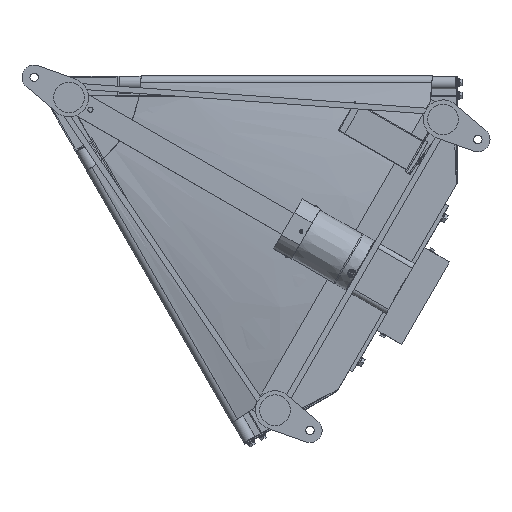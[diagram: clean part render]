
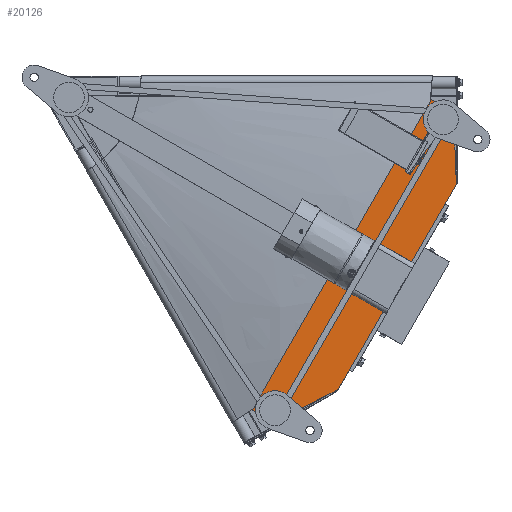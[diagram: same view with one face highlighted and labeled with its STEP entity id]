
A CAD part, front view. The second image highlights one B-rep face of the part: STEP entity #20126.
In plain terms, the highlighted planar face has unit normal (0, -1, 0).
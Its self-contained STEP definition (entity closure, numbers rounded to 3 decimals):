
#146 = EDGE_CURVE ( 'NONE', #35215, #10938, #2870, .T. ) ;
#269 = CARTESIAN_POINT ( 'NONE',  ( 623.99, -167.5, -36.945 ) ) ;
#1400 = DIRECTION ( 'NONE',  ( 0., 0., -1. ) ) ;
#2317 = ORIENTED_EDGE ( 'NONE', *, *, #43453, .F. ) ;
#2782 = CARTESIAN_POINT ( 'NONE',  ( 343.99, -167.5, -521.919 ) ) ;
#2870 = LINE ( 'NONE', #27403, #35605 ) ;
#4723 = VECTOR ( 'NONE', #26844, 1000. ) ;
#5239 = LINE ( 'NONE', #7431, #9993 ) ;
#7431 = CARTESIAN_POINT ( 'NONE',  ( 343.99, -167.5, -521.919 ) ) ;
#8894 = ORIENTED_EDGE ( 'NONE', *, *, #18395, .T. ) ;
#9765 = DIRECTION ( 'NONE',  ( -0.04, 0., 0.999 ) ) ;
#9993 = VECTOR ( 'NONE', #31200, 1000. ) ;
#10307 = VERTEX_POINT ( 'NONE', #36400 ) ;
#10938 = VERTEX_POINT ( 'NONE', #14351 ) ;
#12149 = ORIENTED_EDGE ( 'NONE', *, *, #34001, .T. ) ;
#14247 = DIRECTION ( 'NONE',  ( 0., -1., 0. ) ) ;
#14351 = CARTESIAN_POINT ( 'NONE',  ( 478.092, -167.5, -489.646 ) ) ;
#14764 = CARTESIAN_POINT ( 'NONE',  ( 658.631, -167.5, -56.945 ) ) ;
#14989 = VECTOR ( 'NONE', #40027, 1000. ) ;
#15604 = VERTEX_POINT ( 'NONE', #37674 ) ;
#18395 = EDGE_CURVE ( 'NONE', #35215, #25670, #41291, .T. ) ;
#20126 = ADVANCED_FACE ( 'NONE', ( #40542 ), #31338, .T. ) ;
#23157 = CARTESIAN_POINT ( 'NONE',  ( 378.631, -167.5, -541.919 ) ) ;
#24082 = ORIENTED_EDGE ( 'NONE', *, *, #38598, .F. ) ;
#25670 = VERTEX_POINT ( 'NONE', #14764 ) ;
#26844 = DIRECTION ( 'NONE',  ( 0.866, 0., -0.5 ) ) ;
#27316 = AXIS2_PLACEMENT_3D ( 'NONE', #34760, #14247, #1400 ) ;
#27403 = CARTESIAN_POINT ( 'NONE',  ( 430.592, -167.5, -571.919 ) ) ;
#28393 = DIRECTION ( 'NONE',  ( -0.866, 0., 0.5 ) ) ;
#29249 = CARTESIAN_POINT ( 'NONE',  ( 658.631, -167.5, -56.945 ) ) ;
#29540 = ORIENTED_EDGE ( 'NONE', *, *, #146, .F. ) ;
#29762 = LINE ( 'NONE', #23157, #14989 ) ;
#30143 = CARTESIAN_POINT ( 'NONE',  ( 663.092, -167.5, -169.217 ) ) ;
#30935 = DIRECTION ( 'NONE',  ( -0.5, 0., -0.866 ) ) ;
#30977 = EDGE_LOOP ( 'NONE', ( #12149, #29540, #8894, #24082, #2317, #39945 ) ) ;
#31200 = DIRECTION ( 'NONE',  ( 0.5, 0., 0.866 ) ) ;
#31338 = PLANE ( 'NONE',  #27316 ) ;
#32020 = VERTEX_POINT ( 'NONE', #2782 ) ;
#32253 = CARTESIAN_POINT ( 'NONE',  ( 343.99, -167.5, -521.919 ) ) ;
#34001 = EDGE_CURVE ( 'NONE', #15604, #10938, #29762, .T. ) ;
#34760 = CARTESIAN_POINT ( 'NONE',  ( 8.975, -167.5, -5.182 ) ) ;
#35215 = VERTEX_POINT ( 'NONE', #30143 ) ;
#35605 = VECTOR ( 'NONE', #30935, 1000. ) ;
#36400 = CARTESIAN_POINT ( 'NONE',  ( 623.99, -167.5, -36.945 ) ) ;
#37468 = LINE ( 'NONE', #32253, #40151 ) ;
#37674 = CARTESIAN_POINT ( 'NONE',  ( 378.631, -167.5, -541.919 ) ) ;
#38574 = LINE ( 'NONE', #269, #4723 ) ;
#38598 = EDGE_CURVE ( 'NONE', #10307, #25670, #38574, .T. ) ;
#39945 = ORIENTED_EDGE ( 'NONE', *, *, #43674, .F. ) ;
#40027 = DIRECTION ( 'NONE',  ( 0.885, 0., 0.465 ) ) ;
#40151 = VECTOR ( 'NONE', #28393, 1000. ) ;
#40542 = FACE_OUTER_BOUND ( 'NONE', #30977, .T. ) ;
#41291 = LINE ( 'NONE', #29249, #41852 ) ;
#41852 = VECTOR ( 'NONE', #9765, 1000. ) ;
#43453 = EDGE_CURVE ( 'NONE', #32020, #10307, #5239, .T. ) ;
#43674 = EDGE_CURVE ( 'NONE', #15604, #32020, #37468, .T. ) ;
